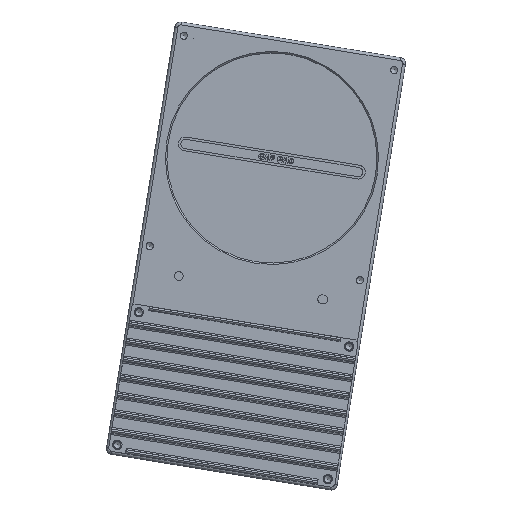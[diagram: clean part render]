
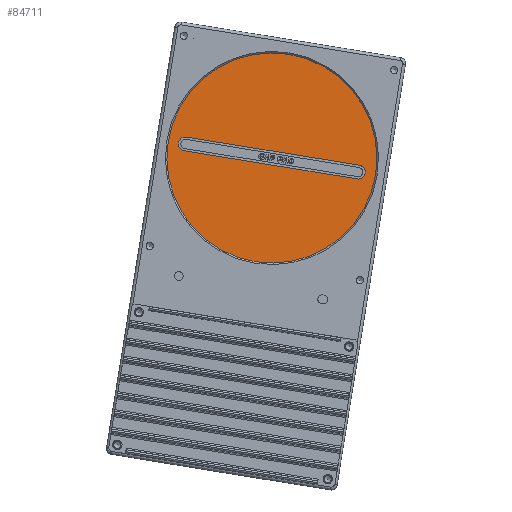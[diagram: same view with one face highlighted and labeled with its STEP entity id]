
A CAD part, top view. The second image highlights one B-rep face of the part: STEP entity #84711.
In plain terms, the highlighted planar face has unit normal (0, 0, 1).
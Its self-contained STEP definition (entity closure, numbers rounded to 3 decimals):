
#62493=CARTESIAN_POINT('',(46.088,-234.026,276.438));
#62494=VERTEX_POINT('',#62493);
#62495=CARTESIAN_POINT('',(51.928,-198.097,276.438));
#62496=DIRECTION('',(0.,0.,1.0));
#62497=DIRECTION('',(0.16,0.987,0.));
#62498=AXIS2_PLACEMENT_3D('',#62495,#62496,#62497);
#62499=CIRCLE('',#62498,36.4);
#62500=EDGE_CURVE('',#62494,#62494,#62499,.T.);
#71893=CARTESIAN_POINT('',(22.699,-190.933,276.438));
#71894=VERTEX_POINT('',#71893);
#71901=CARTESIAN_POINT('',(21.935,-195.634,276.438));
#71902=VERTEX_POINT('',#71901);
#71903=CARTESIAN_POINT('',(22.317,-193.284,276.438));
#71904=DIRECTION('',(0.,0.,-1.0));
#71905=DIRECTION('',(-0.16,-0.987,0.));
#71906=AXIS2_PLACEMENT_3D('',#71903,#71904,#71905);
#71907=CIRCLE('',#71906,2.381);
#71908=EDGE_CURVE('',#71902,#71894,#71907,.T.);
#71933=CARTESIAN_POINT('',(81.157,-205.261,276.438));
#71934=VERTEX_POINT('',#71933);
#71935=CARTESIAN_POINT('',(81.157,-205.261,276.438));
#71936=DIRECTION('',(-0.987,0.16,0.0));
#71937=VECTOR('',#71936,60.);
#71938=LINE('',#71935,#71937);
#71939=EDGE_CURVE('',#71934,#71902,#71938,.T.);
#71965=CARTESIAN_POINT('',(81.921,-200.561,276.438));
#71966=VERTEX_POINT('',#71965);
#71967=CARTESIAN_POINT('',(81.539,-202.911,276.438));
#71968=DIRECTION('',(0.,0.,-1.0));
#71969=DIRECTION('',(0.16,0.987,0.));
#71970=AXIS2_PLACEMENT_3D('',#71967,#71968,#71969);
#71971=CIRCLE('',#71970,2.381);
#71972=EDGE_CURVE('',#71966,#71934,#71971,.T.);
#71995=CARTESIAN_POINT('',(22.699,-190.933,276.438));
#71996=DIRECTION('',(0.987,-0.16,0.0));
#71997=VECTOR('',#71996,60.);
#71998=LINE('',#71995,#71997);
#71999=EDGE_CURVE('',#71894,#71966,#71998,.T.);
#84697=CARTESIAN_POINT('',(51.928,-198.097,276.438));
#84698=DIRECTION('',(0.0,0.0,1.0));
#84699=DIRECTION('',(1.0,0.0,0.0));
#84700=AXIS2_PLACEMENT_3D('',#84697,#84698,#84699);
#84701=PLANE('',#84700);
#84702=ORIENTED_EDGE('',*,*,#62500,.T.);
#84703=EDGE_LOOP('',(#84702));
#84704=FACE_OUTER_BOUND('',#84703,.T.);
#84705=ORIENTED_EDGE('',*,*,#71908,.T.);
#84706=ORIENTED_EDGE('',*,*,#71999,.T.);
#84707=ORIENTED_EDGE('',*,*,#71972,.T.);
#84708=ORIENTED_EDGE('',*,*,#71939,.T.);
#84709=EDGE_LOOP('',(#84705,#84706,#84707,#84708));
#84710=FACE_BOUND('',#84709,.T.);
#84711=ADVANCED_FACE('',(#84704,#84710),#84701,.T.);
